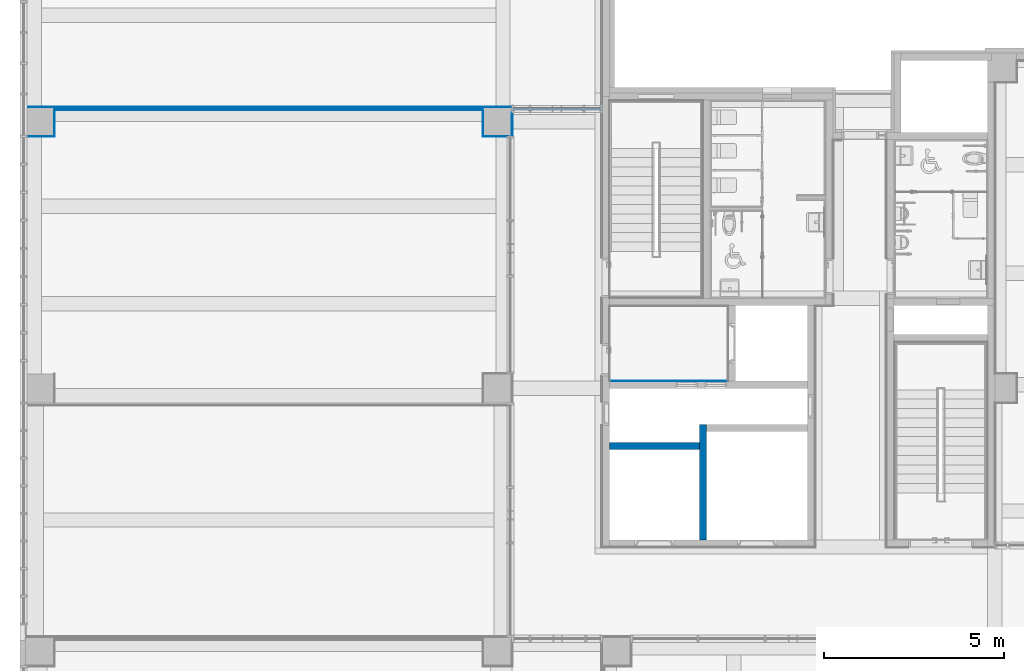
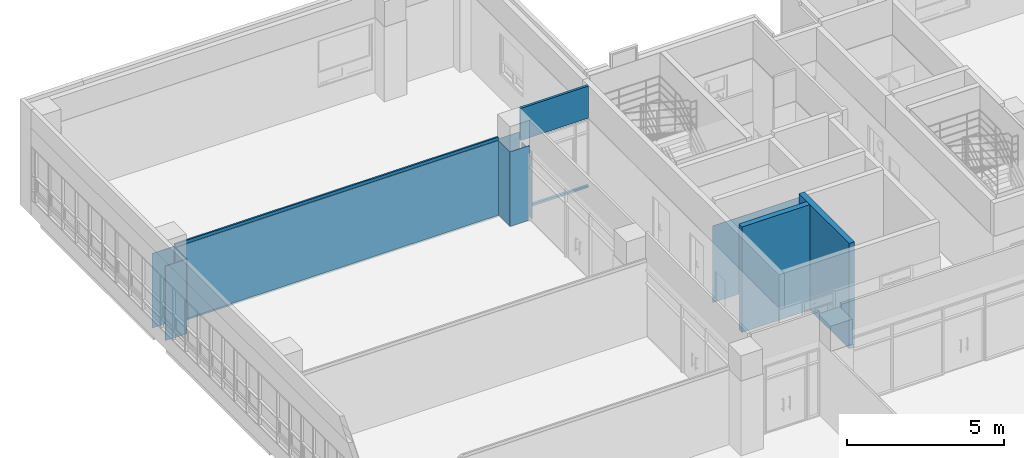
# One storey, part 52 of 81: 12 walls, 3 openings.
"""IFC2X3 building model written with IfcOpenShell, lengths in millimetres."""

from ifc_helpers import new_model, entity, si_unit, converted_unit, derived_unit, direction, frame, frame_2d, origin, place, context, subcontext, project, spatial, polyline, rectangle, extrude, clip, bounded_halfspace, material, layer, layer_set, layer_usage, type_object, element, save


model = new_model("IFC2X3")

# Units and contexts
model_context = context("Model", 3, precision=0.01, world=origin(), true_north=direction((6.123031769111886e-17, 1.0)))
body_context = subcontext(model_context, "Body", "Model", "MODEL_VIEW")
ifc_project = project(units=[si_unit("LENGTHUNIT", "METRE", prefix="MILLI"), si_unit("AREAUNIT", "SQUARE_METRE"), si_unit("VOLUMEUNIT", "CUBIC_METRE"), converted_unit("PLANEANGLEUNIT", "DEGREE", entity("IfcRatioMeasure", 0.017453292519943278), si_unit("PLANEANGLEUNIT", "RADIAN"), dimensions=[0, 0, 0, 0, 0, 0, 0]), si_unit("MASSUNIT", "GRAM", prefix="KILO"), derived_unit("MASSDENSITYUNIT", [(si_unit("MASSUNIT", "GRAM", prefix="KILO"), 1), (si_unit("LENGTHUNIT", "METRE"), -3)]), derived_unit("MOMENTOFINERTIAUNIT", [(si_unit("LENGTHUNIT", "METRE"), 4)]), si_unit("TIMEUNIT", "SECOND"), si_unit("FREQUENCYUNIT", "HERTZ"), si_unit("THERMODYNAMICTEMPERATUREUNIT", "DEGREE_CELSIUS"), derived_unit("THERMALTRANSMITTANCEUNIT", [(si_unit("MASSUNIT", "GRAM", prefix="KILO"), 1), (si_unit("THERMODYNAMICTEMPERATUREUNIT", "KELVIN"), -1), (si_unit("TIMEUNIT", "SECOND"), -3)]), derived_unit("VOLUMETRICFLOWRATEUNIT", [(si_unit("LENGTHUNIT", "METRE"), 3), (si_unit("TIMEUNIT", "SECOND"), -1)]), derived_unit("MASSFLOWRATEUNIT", [(si_unit("MASSUNIT", "GRAM", prefix="KILO"), 1), (si_unit("TIMEUNIT", "SECOND"), -1)]), derived_unit("ROTATIONALFREQUENCYUNIT", [(si_unit("TIMEUNIT", "SECOND"), -1)]), si_unit("ELECTRICCURRENTUNIT", "AMPERE"), si_unit("ELECTRICVOLTAGEUNIT", "VOLT"), si_unit("POWERUNIT", "WATT"), si_unit("FORCEUNIT", "NEWTON", prefix="KILO"), si_unit("ILLUMINANCEUNIT", "LUX"), si_unit("LUMINOUSFLUXUNIT", "LUMEN"), si_unit("LUMINOUSINTENSITYUNIT", "CANDELA"), derived_unit("USERDEFINED", [(si_unit("MASSUNIT", "GRAM", prefix="KILO"), -1), (si_unit("LENGTHUNIT", "METRE"), -2), (si_unit("TIMEUNIT", "SECOND"), 3), (si_unit("LUMINOUSFLUXUNIT", "LUMEN"), 1)]), derived_unit("SOUNDPOWERUNIT", [(si_unit("MASSUNIT", "GRAM", prefix="KILO"), 1), (si_unit("LENGTHUNIT", "METRE"), 2), (si_unit("TIMEUNIT", "SECOND"), -3)]), derived_unit("SOUNDPRESSUREUNIT", [(si_unit("MASSUNIT", "GRAM", prefix="KILO"), 1), (si_unit("LENGTHUNIT", "METRE"), -1), (si_unit("TIMEUNIT", "SECOND"), -2)]), derived_unit("LINEARVELOCITYUNIT", [(si_unit("LENGTHUNIT", "METRE"), 1), (si_unit("TIMEUNIT", "SECOND"), -1)]), si_unit("PRESSUREUNIT", "PASCAL"), derived_unit("USERDEFINED", [(si_unit("LENGTHUNIT", "METRE"), -2), (si_unit("MASSUNIT", "GRAM", prefix="KILO"), 1), (si_unit("TIMEUNIT", "SECOND"), -2)]), derived_unit("LINEARFORCEUNIT", [(si_unit("MASSUNIT", "GRAM", prefix="KILO"), 1), (si_unit("LENGTHUNIT", "METRE"), 1), (si_unit("TIMEUNIT", "SECOND"), -2), (si_unit("LENGTHUNIT", "METRE"), -1)]), derived_unit("PLANARFORCEUNIT", [(si_unit("MASSUNIT", "GRAM", prefix="KILO"), 1), (si_unit("LENGTHUNIT", "METRE"), 1), (si_unit("TIMEUNIT", "SECOND"), -2), (si_unit("LENGTHUNIT", "METRE"), -2)])], contexts=[model_context])

# Site, building, storey
site_placement = place(None, frame((-14167.972527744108, -657.2125860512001, 0.0)))
site = spatial("IfcSite", under=ifc_project, at=site_placement, Name="Default", CompositionType="ELEMENT")
building_placement = place(site_placement, origin())
building = spatial("IfcBuilding", under=site, at=building_placement, Name="Sample Building", CompositionType="ELEMENT")
storey_placement = place(building_placement, frame((0.0, 0.0, 13400.0)))
storey = spatial("IfcBuildingStorey", under=building, at=storey_placement, Name="지상 4층", CompositionType="ELEMENT", Elevation=13400.00000000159)

# Walls
ifc_material_1 = material(Name="KBIMS-콘크리트")
ifc_layer_1 = layer(ifc_material_1, 200.0)
ifc_layer_set_1 = layer_set([ifc_layer_1], Name="기본 벽:WA111-철근콘크리트구조 벽 200mm_CW1")
ifc_layer_usage_1 = layer_usage(ifc_layer_set_1, "AXIS2", "NEGATIVE", 100.0)
wall_type_1 = type_object("IfcWallType", Name="기본 벽:WA111-철근콘크리트구조 벽 200mm_CW1", PredefinedType="STANDARD", material=ifc_layer_set_1)
wall_1_placement = place(storey_placement, frame((32868.04926576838, 15757.302947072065, -2.3000097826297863e-09), z_axis=(0.0, 0.0, 1.0), x_axis=(0.0, 1.0, 0.0)))
element("IfcWallStandardCase", 1, at=wall_1_placement, inside=storey, type_object=wall_type_1, material=ifc_layer_usage_1, Name="기본 벽:WA111-철근콘크리트구조 벽 200mm_CW1", ObjectType="기본 벽:WA111-철근콘크리트구조 벽 200mm_CW1", context=body_context, shape_type="SweptSolid", body=[
    extrude(rectangle(XDim=3199.909362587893, YDim=200.0000000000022, at=frame_2d((1599.9546812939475, -2.1032064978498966e-12), x_axis=(-1.0, 0.0))), origin(), (0.0, 0.0, 1.0), 4100.000000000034),
])
ifc_layer_usage_2 = layer_usage(ifc_layer_set_1, "AXIS2", "NEGATIVE", 100.0)
wall_2_placement = place(storey_placement, frame((32768.049265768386, 18357.212309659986, -2.3000097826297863e-09), z_axis=(0.0, 0.0, 1.0), x_axis=(-1.0, 0.0, 0.0)))
element("IfcWallStandardCase", 2, at=wall_2_placement, inside=storey, type_object=wall_type_1, material=ifc_layer_usage_2, Name="기본 벽:WA111-철근콘크리트구조 벽 200mm_CW1", ObjectType="기본 벽:WA111-철근콘크리트구조 벽 200mm_CW1", context=body_context, shape_type="SweptSolid", body=[
    extrude(rectangle(XDim=2500.0855042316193, YDim=200.0, at=frame_2d((1250.0427521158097, 9.592326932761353e-13), x_axis=(-1.0, 0.0))), origin(), (0.0, 0.0, 1.0), 4100.000000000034),
])
ifc_material_2 = material(Name="KBIMS-DRY WALL")
ifc_layer_2 = layer(ifc_material_2, 12.5)
ifc_material_3 = material(Name="KBIMS-경량철골벽틀")
ifc_layer_3 = layer(ifc_material_3, 50.0)
ifc_layer_set_2 = layer_set([ifc_layer_2, ifc_layer_3], Name="기본 벽:WA731-DRY WALL(C50, GS12.5mm) (1겹한면, GW50mm) 62.5mm")
ifc_layer_usage_3 = layer_usage(ifc_layer_set_2, "AXIS2", "NEGATIVE", 31.250000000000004)
wall_type_2 = type_object("IfcWallType", Name="기본 벽:WA731-DRY WALL(C50, GS12.5mm) (1겹한면, GW50mm) 62.5mm", PredefinedType="STANDARD", material=ifc_layer_set_2)
wall_3_placement = place(storey_placement, frame((14867.972454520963, 27725.962586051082, -2.297844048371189e-09)))
element("IfcWallStandardCase", 3, at=wall_3_placement, inside=storey, type_object=wall_type_2, material=ifc_layer_usage_3, Name="기본 벽:WA731-DRY WALL(C50, GS12.5mm) (1겹한면, GW50mm) 62.5mm", ObjectType="기본 벽:WA731-DRY WALL(C50, GS12.5mm) (1겹한면, GW50mm) 62.5mm", context=body_context, shape_type="SweptSolid", body=[
    extrude(rectangle(XDim=11900.000036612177, YDim=62.49999999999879, at=frame_2d((5950.000018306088, 2.1653789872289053e-12), x_axis=(-1.0, 0.0))), origin(), (0.0, 0.0, 1.0), 3100.000000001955),
])

# Wall, opening
ifc_material_4 = material(Name="KBIMS-시멘트 벽돌")
ifc_layer_4 = layer(ifc_material_4, 90.0)
ifc_layer_set_3 = layer_set([ifc_layer_4], Name="기본 벽:WA211-시멘트벽돌(일반) 벽 (0.5B) 90mm")
ifc_layer_usage_4 = layer_usage(ifc_layer_set_3, "AXIS2", "NEGATIVE", 45.0)
wall_type_3 = type_object("IfcWallType", Name="기본 벽:WA211-시멘트벽돌(일반) 벽 (0.5B) 90mm", PredefinedType="STANDARD", material=ifc_layer_set_3)
wall_4_placement = place(storey_placement, frame((30067.96376153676, 27712.21258605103, 0.0), z_axis=(0.0, 0.0, 1.0), x_axis=(-1.0, 0.0, 0.0)))
wall_4 = element("IfcWallStandardCase", 4, at=wall_4_placement, inside=storey, type_object=wall_type_3, material=ifc_layer_usage_4, Name="기본 벽:WA211-시멘트벽돌(일반) 벽 (0.5B) 90mm", ObjectType="기본 벽:WA211-시멘트벽돌(일반) 벽 (0.5B) 90mm", context=body_context, shape_type="Clipping", body=[
    clip(extrude(rectangle(XDim=2499.9834469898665, YDim=90.0000000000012, at=frame_2d((1249.9917234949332, -2.3234747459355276e-12), x_axis=(-1.0, 0.0))), origin(), (0.0, 0.0, 1.0), 3950.0000000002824), bounded_halfspace(frame((0.0, -45.0, 3950.0), z_axis=(0.0, 0.0, -1.0), x_axis=(-1.0, 0.0, 0.0)), True, frame((0.0, -45.0, 3950.0), z_axis=(0.0, 0.0, -1.0), x_axis=(-1.0, 0.0, 0.0)), polyline([(0.0, 0.0), (0.0, 27432.0), (-761994.9546425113, 27432.0), (-761994.9546425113, -2.5469034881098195e-09), (0.0, 0.0)]))),
])
opening_1_placement = place(wall_4_placement, origin())
element("IfcOpeningElement", 5, at=opening_1_placement, cuts=wall_4, Name="기본 벽:WA211-시멘트벽돌(일반) 벽 (0.5B) 90mm", ObjectType="Opening", context=body_context, shape_type="SweptSolid", body=[
    extrude(rectangle(XDim=2619.9999999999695, YDim=2499.999999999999, at=frame_2d((1.1368683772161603e-12, -2.2737367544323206e-12), x_axis=(1.0, 0.0))), frame((1250.0, -197.4000000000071, 1390.0), z_axis=(0.0, 1.0, 0.0), x_axis=(0.0, 0.0, 1.0)), (0.0, 0.0, 1.0), 394.8000000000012),
])

# Wall, openings
ifc_material_5 = material(Name="WA611-수성페인트 (내부) 벽 (3회)")
ifc_layer_5 = layer(ifc_material_5, 1.0)
ifc_material_6 = material(Name="WA551-시멘트모르타르 (내부) 벽 18mm")
ifc_layer_6 = layer(ifc_material_6, 16.0)
ifc_material_7 = material(Name="WA555-콘크리트면정리 벽 (내부)")
ifc_layer_7 = layer(ifc_material_7, 1.0)
ifc_layer_set_4 = layer_set([ifc_layer_5, ifc_layer_6, ifc_layer_7], Name="기본 벽:A1-32-06A-콘크리트면정리, 시멘트모르타르(미장용), 수성페인트(내부) (18mm)")
ifc_layer_usage_5 = layer_usage(ifc_layer_set_4, "AXIS2", "POSITIVE", -9.000000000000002)
wall_type_4 = type_object("IfcWallType", Name="기본 벽:A1-32-06A-콘크리트면정리, 시멘트모르타르(미장용), 수성페인트(내부) (18mm)", PredefinedType="STANDARD", material=ifc_layer_set_4)
wall_5_placement = place(storey_placement, frame((33568.60544405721, 20166.211898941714, 0.0), z_axis=(0.0, 0.0, 1.0), x_axis=(-1.0, 0.0, 0.0)))
wall_5 = element("IfcWallStandardCase", 6, at=wall_5_placement, inside=storey, type_object=wall_type_4, material=ifc_layer_usage_5, Name="기본 벽:A1-32-06A-콘크리트면정리, 시멘트모르타르(미장용), 수성페인트(내부) (18mm)", ObjectType="기본 벽:A1-32-06A-콘크리트면정리, 시멘트모르타르(미장용), 수성페인트(내부) (18mm)", context=body_context, shape_type="SweptSolid", body=[
    extrude(rectangle(XDim=3282.6416640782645, YDim=18.00000000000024, at=frame_2d((1641.3208320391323, -1.644906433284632e-12), x_axis=(-1.0, 0.0))), origin(), (0.0, 0.0, 1.0), 2979.9999999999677),
])
opening_2_placement = place(wall_5_placement, origin())
element("IfcOpeningElement", 7, at=opening_2_placement, cuts=wall_5, Name="기본 벽:A1-32-06A-콘크리트면정리, 시멘트모르타르(미장용), 수성페인트(내부) (18mm)", ObjectType="Opening", context=body_context, shape_type="SweptSolid", body=[
    extrude(rectangle(XDim=800.0000000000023, YDim=600.0000000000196, at=frame_2d((-1.1084466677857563e-12, 0.0), x_axis=(1.0, 0.0))), frame((1150.6331333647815, -1315.0004090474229, 900.0), z_axis=(0.0, 1.0, 0.0), x_axis=(0.0, 0.0, -1.0)), (0.0, 0.0, 1.0), 3048.0),
])
opening_3_placement = place(wall_5_placement, origin())
element("IfcOpeningElement", 8, at=opening_3_placement, cuts=wall_5, Name="기본 벽:A1-32-06A-콘크리트면정리, 시멘트모르타르(미장용), 수성페인트(내부) (18mm)", ObjectType="Opening", context=body_context, shape_type="SweptSolid", body=[
    extrude(rectangle(XDim=800.0000000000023, YDim=600.0000000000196, at=frame_2d((0.0, -1.1084466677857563e-12), x_axis=(0.0, 1.0))), frame((350.63286270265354, -1315.0004090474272, 900.0), z_axis=(0.0, 1.0, 0.0), x_axis=(1.0, 0.0, 0.0)), (0.0, 0.0, 1.0), 3048.0000000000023),
])

# Walls
ifc_layer_usage_6 = layer_usage(ifc_layer_set_4, "AXIS2", "NEGATIVE", 9.000000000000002)
wall_6_placement = place(storey_placement, frame((14067.97245452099, 27766.2118989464, 80.0)))
element("IfcWallStandardCase", 9, at=wall_6_placement, inside=storey, type_object=wall_type_4, material=ifc_layer_usage_6, Name="기본 벽:A1-32-06A-콘크리트면정리, 시멘트모르타르(미장용), 수성페인트(내부) (18mm)", ObjectType="기본 벽:A1-32-06A-콘크리트면정리, 시멘트모르타르(미장용), 수성페인트(내부) (18mm)", context=body_context, shape_type="SweptSolid", body=[
    extrude(rectangle(XDim=13500.007860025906, YDim=18.00000000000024, at=frame_2d((6750.003930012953, -1.922906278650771e-12), x_axis=(-1.0, 0.0))), origin(), (0.0, 0.0, 1.0), 2899.999999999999),
])
ifc_layer_usage_7 = layer_usage(ifc_layer_set_4, "AXIS2", "NEGATIVE", 9.000000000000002)
wall_7_placement = place(storey_placement, frame((27478.972509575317, 26948.21189894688, 80.0), z_axis=(0.0, 0.0, 1.0), x_axis=(-1.0, 0.0, 0.0)))
element("IfcWallStandardCase", 10, at=wall_7_placement, inside=storey, type_object=wall_type_4, material=ifc_layer_usage_7, Name="기본 벽:A1-32-06A-콘크리트면정리, 시멘트모르타르(미장용), 수성페인트(내부) (18mm)", ObjectType="기본 벽:A1-32-06A-콘크리트면정리, 시멘트모르타르(미장용), 수성페인트(내부) (18mm)", context=body_context, shape_type="SweptSolid", body=[
    extrude(rectangle(XDim=728.9999999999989, YDim=18.00000000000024, at=frame_2d((364.49999999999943, -2.1662671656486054e-12), x_axis=(-1.0, 0.0))), origin(), (0.0, 0.0, 1.0), 2899.999999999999),
])
ifc_layer_usage_8 = layer_usage(ifc_layer_set_4, "AXIS2", "NEGATIVE", 9.000000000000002)
wall_8_placement = place(storey_placement, frame((26758.972509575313, 26957.211898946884, 80.0), z_axis=(0.0, 0.0, 1.0), x_axis=(0.0, 1.0, 0.0)))
element("IfcWallStandardCase", 11, at=wall_8_placement, inside=storey, type_object=wall_type_4, material=ifc_layer_usage_8, Name="기본 벽:A1-32-06A-콘크리트면정리, 시멘트모르타르(미장용), 수성페인트(내부) (18mm)", ObjectType="기본 벽:A1-32-06A-콘크리트면정리, 시멘트모르타르(미장용), 수성페인트(내부) (18mm)", context=body_context, shape_type="SweptSolid", body=[
    extrude(rectangle(XDim=737.4999999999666, YDim=18.00000000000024, at=frame_2d((368.7499999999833, -2.1662671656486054e-12), x_axis=(-1.0, 0.0))), origin(), (0.0, 0.0, 1.0), 2899.999999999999),
])
ifc_layer_usage_9 = layer_usage(ifc_layer_set_4, "AXIS2", "NEGATIVE", 9.000000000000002)
wall_9_placement = place(storey_placement, frame((26749.972509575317, 27685.711898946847, 80.0), z_axis=(0.0, 0.0, 1.0), x_axis=(-1.0, 0.0, 0.0)))
element("IfcWallStandardCase", 12, at=wall_9_placement, inside=storey, type_object=wall_type_4, material=ifc_layer_usage_9, Name="기본 벽:A1-32-06A-콘크리트면정리, 시멘트모르타르(미장용), 수성페인트(내부) (18mm)", ObjectType="기본 벽:A1-32-06A-콘크리트면정리, 시멘트모르타르(미장용), 수성페인트(내부) (18mm)", context=body_context, shape_type="SweptSolid", body=[
    extrude(rectangle(XDim=11882.017404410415, YDim=18.00000000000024, at=frame_2d((5941.008702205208, -2.1662671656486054e-12), x_axis=(-1.0, 0.0))), origin(), (0.0, 0.0, 1.0), 2899.999999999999),
])
ifc_layer_usage_10 = layer_usage(ifc_layer_set_4, "AXIS2", "NEGATIVE", 9.000000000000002)
wall_10_placement = place(storey_placement, frame((14876.955105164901, 27676.71189894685, 80.0), z_axis=(0.0, 0.0, 1.0), x_axis=(0.0, -1.0, 0.0)))
element("IfcWallStandardCase", 13, at=wall_10_placement, inside=storey, type_object=wall_type_4, material=ifc_layer_usage_10, Name="기본 벽:A1-32-06A-콘크리트면정리, 시멘트모르타르(미장용), 수성페인트(내부) (18mm)", ObjectType="기본 벽:A1-32-06A-콘크리트면정리, 시멘트모르타르(미장용), 수성페인트(내부) (18mm)", context=body_context, shape_type="SweptSolid", body=[
    extrude(rectangle(XDim=737.5000000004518, YDim=18.000000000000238, at=frame_2d((368.7500000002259, 0.0), x_axis=(-1.0, 0.0))), origin(), (0.0, 0.0, 1.0), 2899.999999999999),
])
ifc_layer_usage_11 = layer_usage(ifc_layer_set_4, "AXIS2", "NEGATIVE", 9.000000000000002)
wall_11_placement = place(storey_placement, frame((14867.955105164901, 26948.211898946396, 80.0), z_axis=(0.0, 0.0, 1.0), x_axis=(-1.0, 0.0, 0.0)))
element("IfcWallStandardCase", 14, at=wall_11_placement, inside=storey, type_object=wall_type_4, material=ifc_layer_usage_11, Name="기본 벽:A1-32-06A-콘크리트면정리, 시멘트모르타르(미장용), 수성페인트(내부) (18mm)", ObjectType="기본 벽:A1-32-06A-콘크리트면정리, 시멘트모르타르(미장용), 수성페인트(내부) (18mm)", context=body_context, shape_type="SweptSolid", body=[
    extrude(rectangle(XDim=781.9825342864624, YDim=18.00000000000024, at=frame_2d((390.9912671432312, -2.1662671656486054e-12), x_axis=(-1.0, 0.0))), origin(), (0.0, 0.0, 1.0), 2899.999999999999),
])
ifc_layer_8 = layer(ifc_material_5, 1.0)
ifc_material_8 = material(Name="WA551-시멘트모르타르 (내부) 벽 24mm")
ifc_layer_9 = layer(ifc_material_8, 21.0)
ifc_material_9 = material(Name="WA961-바닥방수 연장")
ifc_layer_10 = layer(ifc_material_9, 1.0)
ifc_layer_11 = layer(ifc_material_7, 1.0)
ifc_layer_set_5 = layer_set([ifc_layer_8, ifc_layer_9, ifc_layer_10, ifc_layer_11], Name="기본 벽:A1-32-07A-콘크리트면정리, 바닥방수연장, 시멘트모르타르(미장용), 수성페인트(내부) (24mm)")
ifc_layer_usage_12 = layer_usage(ifc_layer_set_5, "AXIS2", "NEGATIVE", 12.000000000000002)
wall_type_5 = type_object("IfcWallType", Name="기본 벽:A1-32-07A-콘크리트면정리, 바닥방수연장, 시멘트모르타르(미장용), 수성페인트(내부) (24mm)", PredefinedType="STANDARD", material=ifc_layer_set_5)
wall_12_placement = place(storey_placement, frame((27579.972509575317, 27612.21189894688, 80.0), z_axis=(0.0, 0.0, 1.0), x_axis=(0.0, -1.0, 0.0)))
element("IfcWallStandardCase", 15, at=wall_12_placement, inside=storey, type_object=wall_type_5, material=ifc_layer_usage_12, Name="기본 벽:A1-32-07A-콘크리트면정리, 바닥방수연장, 시멘트모르타르(미장용), 수성페인트(내부) (24mm)", ObjectType="기본 벽:A1-32-07A-콘크리트면정리, 바닥방수연장, 시멘트모르타르(미장용), 수성페인트(내부) (24mm)", context=body_context, shape_type="SweptSolid", body=[
    extrude(rectangle(XDim=654.9999999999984, YDim=23.999999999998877, at=frame_2d((327.4999999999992, 2.1662671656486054e-12), x_axis=(-1.0, 0.0))), origin(), (0.0, 0.0, 1.0), 2599.999999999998),
])

save(model, "model.ifc")
